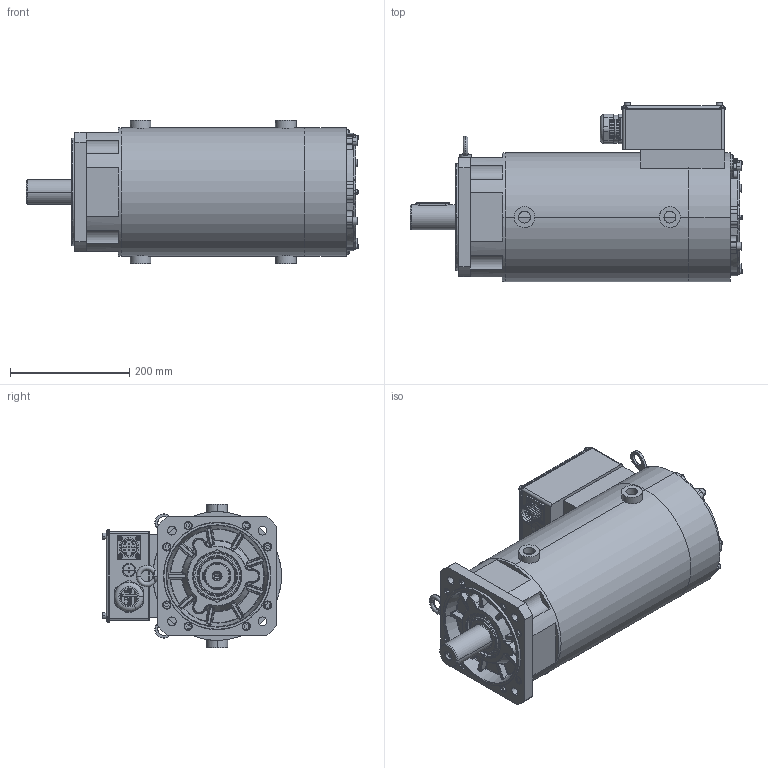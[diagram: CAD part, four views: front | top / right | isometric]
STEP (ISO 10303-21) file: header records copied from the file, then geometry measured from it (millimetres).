
FILE_DESCRIPTION((''),'2;1');
FILE_NAME('11101-02127_SW0002','2026-03-09T14:11:26',('admin'),(''),'CREO PARAMETRIC BY PTC INC, 2019080','CREO PARAMETRIC BY PTC INC, 2019080','');
FILE_SCHEMA(('CONFIG_CONTROL_DESIGN'));
Length unit declared in the file: millimetre
Products named in the file (1): 11101-02127_SW0002
Bounding box: 557 x 300.5 x 240 mm (x, y, z)
Surface area: 1301953.8 mm2 (no closed solid volume)
Topology: 0 solids, 104 shells, 1290 faces, 5088 edges, 3797 vertices
Faces by surface type: plane 539, cylinder 472, cone 102, torus 82, bspline 76, sphere 19
Entity records: 68962 total; most frequent: CARTESIAN_POINT 26975, DIRECTION 8873, ORIENTED_EDGE 7581, EDGE_CURVE 5073, VERTEX_POINT 3797, AXIS2_PLACEMENT_3D 3027, VECTOR 2819, LINE 2819
